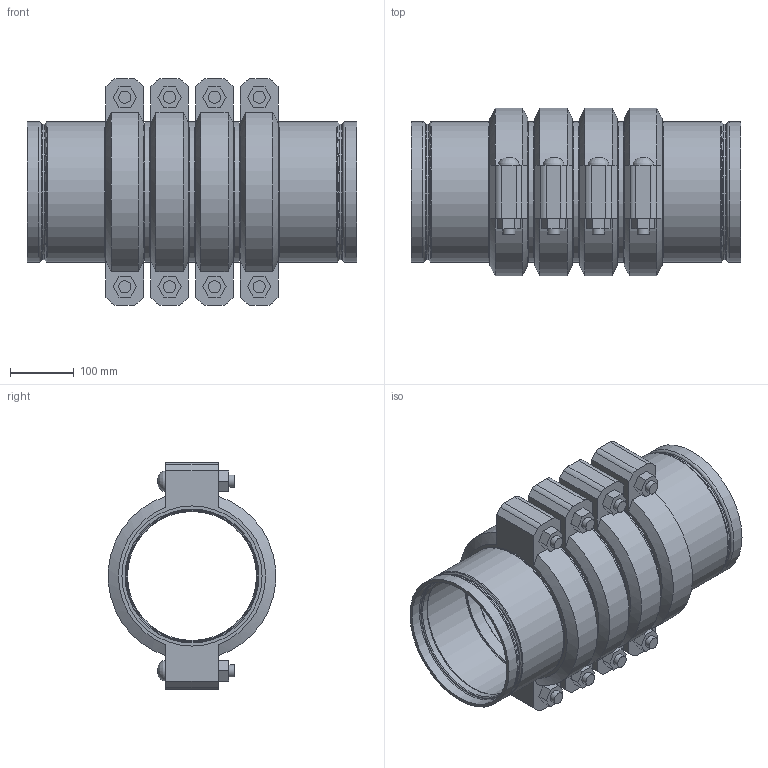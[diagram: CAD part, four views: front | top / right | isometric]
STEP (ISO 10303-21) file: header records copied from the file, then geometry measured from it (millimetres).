
FILE_DESCRIPTION(/* description */ ('VIC STRENGTHIN 100 EXPANSION JOINT 4 COUPLINGS COMPRESSED STYLE E155 (ST1)','CAx-IF Rec.Pracs.---Representation and Presentation of Product Manufacturing Information (PMI)---4.0---2014-10-13'),/* implementation_level */ '2;1');
FILE_NAME(/* name */ 'C:\Users\Vjadhav\AppData\Roaming\Autodesk\ApplicationPlugins\Victaulic.Temp\A975\Victaulic_SS-StrengThin 100_Expansion Joint_Compressed_4 Couplings_Style E155 (ST1)_8 (200).stp',/* time_stamp */ '2021-07-23T12:31:42+05:00',/* author */ ('kkamble'),/* organization */ ('Victaulic'),/* preprocessor_version */ 'ST-DEVELOPER v17.2',/* originating_system */ 'Autodesk Inventor 2019',/* authorisation */ '');
FILE_SCHEMA (('AP242_MANAGED_MODEL_BASED_3D_ENGINEERING_MIM_LF { 1 0 10303 442 1 1 4 }'));
Length unit declared in the file: inch
Products named in the file (4): E155-08.0; E494G-08.0; Nipple-08.0; 075-08.0
Assembly tree (9 placements, depth 2):
  E155-08.0
    E494G-08.0  x2
    Nipple-08.0  x3
    075-08.0  x4
Bounding box: 515.11 x 261.72 x 354.84 mm (x, y, z)
Volume: 7537156.4 mm3; surface area: 1434689.9 mm2
Topology: 9 solids, 17 shells, 318 faces, 828 edges, 590 vertices
Faces by surface type: plane 168, cylinder 90, torus 32, cone 20, bspline 8
Full cylindrical faces by diameter (mm): 19.05 x16, 21.209 x8, 201.651 x2, 202.717 x3, 204.851 x2, 209.525 x6, 211.201 x2, 214.401 x8, 219.075 x19
Entity records: 3682 total; most frequent: DIRECTION 653, CARTESIAN_POINT 650, ORIENTED_EDGE 544, AXIS2_PLACEMENT_3D 278, EDGE_CURVE 272, VERTEX_POINT 197, CIRCLE 167, EDGE_LOOP 125
